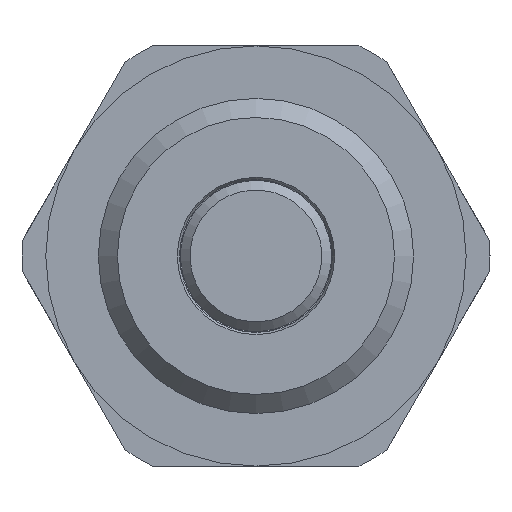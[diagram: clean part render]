
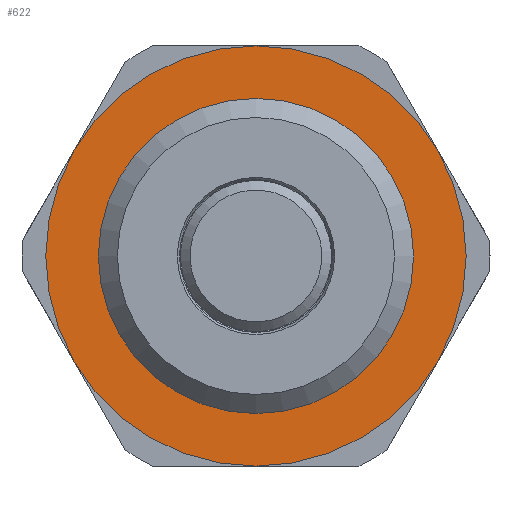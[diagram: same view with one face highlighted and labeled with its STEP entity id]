
A CAD part, front view. The second image highlights one B-rep face of the part: STEP entity #622.
In plain terms, the highlighted planar face has unit normal (0, -1, 0).
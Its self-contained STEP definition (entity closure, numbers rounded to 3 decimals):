
#19=FACE_BOUND('',#96,.T.);
#25=PLANE('',#686);
#58=FACE_OUTER_BOUND('',#95,.T.);
#95=EDGE_LOOP('',(#411));
#96=EDGE_LOOP('',(#412));
#208=CIRCLE('',#684,8.1);
#210=CIRCLE('',#687,11.);
#252=VERTEX_POINT('',#975);
#254=VERTEX_POINT('',#981);
#312=EDGE_CURVE('',#252,#252,#208,.T.);
#315=EDGE_CURVE('',#254,#254,#210,.T.);
#411=ORIENTED_EDGE('',*,*,#315,.T.);
#412=ORIENTED_EDGE('',*,*,#312,.T.);
#622=ADVANCED_FACE('',(#58,#19),#25,.F.);
#684=AXIS2_PLACEMENT_3D('',#976,#780,#781);
#686=AXIS2_PLACEMENT_3D('',#980,#785,#786);
#687=AXIS2_PLACEMENT_3D('',#982,#787,#788);
#780=DIRECTION('center_axis',(0.,1.,0.));
#781=DIRECTION('ref_axis',(-1.,0.,0.));
#785=DIRECTION('center_axis',(0.,1.,0.));
#786=DIRECTION('ref_axis',(1.,0.,0.));
#787=DIRECTION('center_axis',(0.,-1.,0.));
#788=DIRECTION('ref_axis',(-1.,0.,0.));
#975=CARTESIAN_POINT('',(8.1,8.5,0.));
#976=CARTESIAN_POINT('Origin',(0.,8.5,0.));
#980=CARTESIAN_POINT('Origin',(0.,8.5,0.));
#981=CARTESIAN_POINT('',(11.,8.5,0.));
#982=CARTESIAN_POINT('Origin',(0.,8.5,0.));
